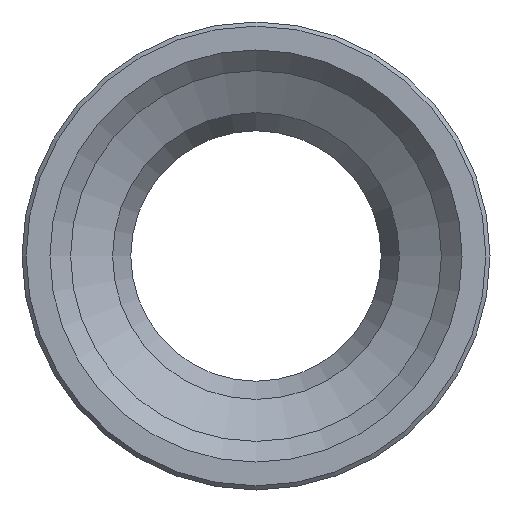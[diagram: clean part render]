
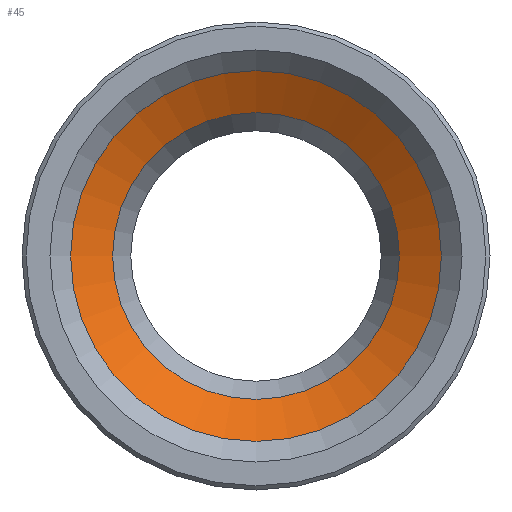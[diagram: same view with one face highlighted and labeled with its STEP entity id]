
A CAD part, front view. The second image highlights one B-rep face of the part: STEP entity #45.
In plain terms, the highlighted conical face has half-angle 60 degrees and reference radius 19.885 mm.
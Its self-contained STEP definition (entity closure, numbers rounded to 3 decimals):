
#45=ADVANCED_FACE('',(#238,#240),#242,.F.);
#238=FACE_OUTER_BOUND('',#239,.T.);
#239=EDGE_LOOP('',(#1484));
#240=FACE_OUTER_BOUND('',#241,.T.);
#241=EDGE_LOOP('',(#1485));
#242=CONICAL_SURFACE('',#243,19.885,1.047);
#243=AXIS2_PLACEMENT_3D('',#244,#245,#246);
#244=CARTESIAN_POINT('',(0.,21.465,0.));
#245=DIRECTION('',(0.,-1.,0.));
#246=DIRECTION('',(1.,0.,0.));
#1484=ORIENTED_EDGE('',*,*,#2758,.T.);
#1485=ORIENTED_EDGE('',*,*,#2759,.T.);
#2758=EDGE_CURVE('',#3253,#3253,#3254,.T.);
#2759=EDGE_CURVE('',#3255,#3255,#3256,.F.);
#3253=VERTEX_POINT('',#4087);
#3254=CIRCLE('',#4088,22.423);
#3255=VERTEX_POINT('',#4092);
#3256=CIRCLE('',#4093,17.348);
#4087=CARTESIAN_POINT('',(22.423,20.,0.));
#4088=AXIS2_PLACEMENT_3D('',#4089,#4090,#4091);
#4089=CARTESIAN_POINT('',(0.,20.,0.));
#4090=DIRECTION('',(0.,-1.,0.));
#4091=DIRECTION('',(1.,0.,0.));
#4092=CARTESIAN_POINT('',(17.348,22.93,0.));
#4093=AXIS2_PLACEMENT_3D('',#4094,#4095,#4096);
#4094=CARTESIAN_POINT('',(0.,22.93,0.));
#4095=DIRECTION('',(0.,-1.,0.));
#4096=DIRECTION('',(1.,0.,0.));
